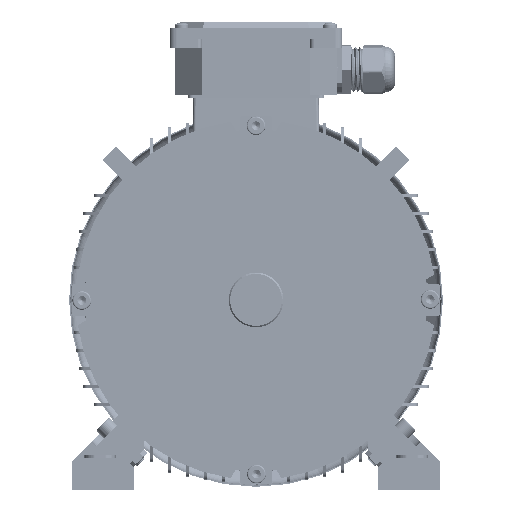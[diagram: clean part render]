
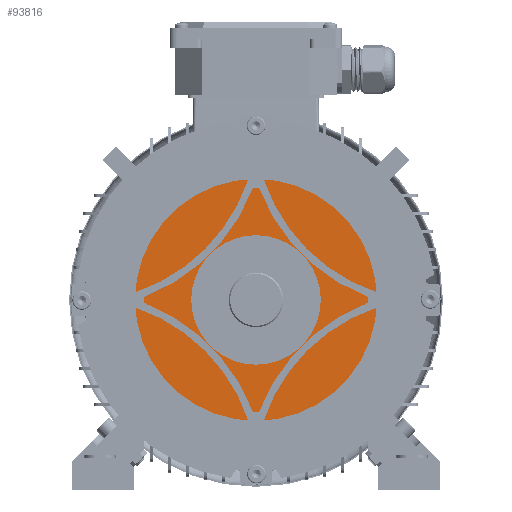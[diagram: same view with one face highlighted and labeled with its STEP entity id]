
A CAD part, front view. The second image highlights one B-rep face of the part: STEP entity #93816.
In plain terms, the highlighted planar face has unit normal (0, -1, 0).
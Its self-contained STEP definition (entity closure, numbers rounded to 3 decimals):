
#1594 = CARTESIAN_POINT ( 'NONE',  ( 0., 11.146, 0. ) ) ;
#2989 = DIRECTION ( 'NONE',  ( 0., -1., 0. ) ) ;
#8249 = AXIS2_PLACEMENT_3D ( 'NONE', #37395, #111734, #48089 ) ;
#12334 = DIRECTION ( 'NONE',  ( 0., 0., -1. ) ) ;
#14987 = ORIENTED_EDGE ( 'NONE', *, *, #33551, .T. ) ;
#21246 = FACE_BOUND ( 'NONE', #132180, .T. ) ;
#21953 = VERTEX_POINT ( 'NONE', #60711 ) ;
#22384 = AXIS2_PLACEMENT_3D ( 'NONE', #66767, #2989, #77458 ) ;
#30725 = DIRECTION ( 'NONE',  ( 0., -1., 0. ) ) ;
#33551 = EDGE_CURVE ( 'NONE', #21953, #53499, #131870, .T. ) ;
#36152 = VERTEX_POINT ( 'NONE', #39047 ) ;
#37268 = CARTESIAN_POINT ( 'NONE',  ( 0., 11.146, 0. ) ) ;
#37395 = CARTESIAN_POINT ( 'NONE',  ( 0., 11.146, 0. ) ) ;
#38265 = EDGE_LOOP ( 'NONE', ( #14987, #48521 ) ) ;
#39047 = CARTESIAN_POINT ( 'NONE',  ( 0., 11.146, -45. ) ) ;
#43260 = ORIENTED_EDGE ( 'NONE', *, *, #137592, .F. ) ;
#47079 = AXIS2_PLACEMENT_3D ( 'NONE', #83777, #30725, #105139 ) ;
#47972 = DIRECTION ( 'NONE',  ( 0., 0., -1. ) ) ;
#48089 = DIRECTION ( 'NONE',  ( 0., 0., -1. ) ) ;
#48521 = ORIENTED_EDGE ( 'NONE', *, *, #49408, .T. ) ;
#49408 = EDGE_CURVE ( 'NONE', #53499, #21953, #93520, .T. ) ;
#49625 = CIRCLE ( 'NONE', #56417, 45. ) ;
#53499 = VERTEX_POINT ( 'NONE', #121154 ) ;
#56417 = AXIS2_PLACEMENT_3D ( 'NONE', #1594, #76074, #12334 ) ;
#60711 = CARTESIAN_POINT ( 'NONE',  ( 0., 11.146, -84. ) ) ;
#62920 = FACE_OUTER_BOUND ( 'NONE', #38265, .T. ) ;
#66767 = CARTESIAN_POINT ( 'NONE',  ( 0., 11.146, 0. ) ) ;
#73844 = AXIS2_PLACEMENT_3D ( 'NONE', #37268, #111629, #47972 ) ;
#76074 = DIRECTION ( 'NONE',  ( 0., -1., 0. ) ) ;
#77458 = DIRECTION ( 'NONE',  ( 0., 0., -1. ) ) ;
#79518 = EDGE_CURVE ( 'NONE', #36152, #137950, #49625, .T. ) ;
#83777 = CARTESIAN_POINT ( 'NONE',  ( 84., 11.146, 0. ) ) ;
#86089 = CIRCLE ( 'NONE', #22384, 45. ) ;
#93520 = CIRCLE ( 'NONE', #8249, 84. ) ;
#93816 = ADVANCED_FACE ( 'NONE', ( #62920, #21246 ), #115336, .T. ) ;
#105139 = DIRECTION ( 'NONE',  ( 0., 0., -1. ) ) ;
#111629 = DIRECTION ( 'NONE',  ( 0., -1., 0. ) ) ;
#111734 = DIRECTION ( 'NONE',  ( 0., -1., 0. ) ) ;
#115336 = PLANE ( 'NONE',  #47079 ) ;
#115430 = CARTESIAN_POINT ( 'NONE',  ( 0., 11.146, 45. ) ) ;
#121154 = CARTESIAN_POINT ( 'NONE',  ( 0., 11.146, 84. ) ) ;
#130475 = ORIENTED_EDGE ( 'NONE', *, *, #79518, .F. ) ;
#131870 = CIRCLE ( 'NONE', #73844, 84. ) ;
#132180 = EDGE_LOOP ( 'NONE', ( #130475, #43260 ) ) ;
#137592 = EDGE_CURVE ( 'NONE', #137950, #36152, #86089, .T. ) ;
#137950 = VERTEX_POINT ( 'NONE', #115430 ) ;
